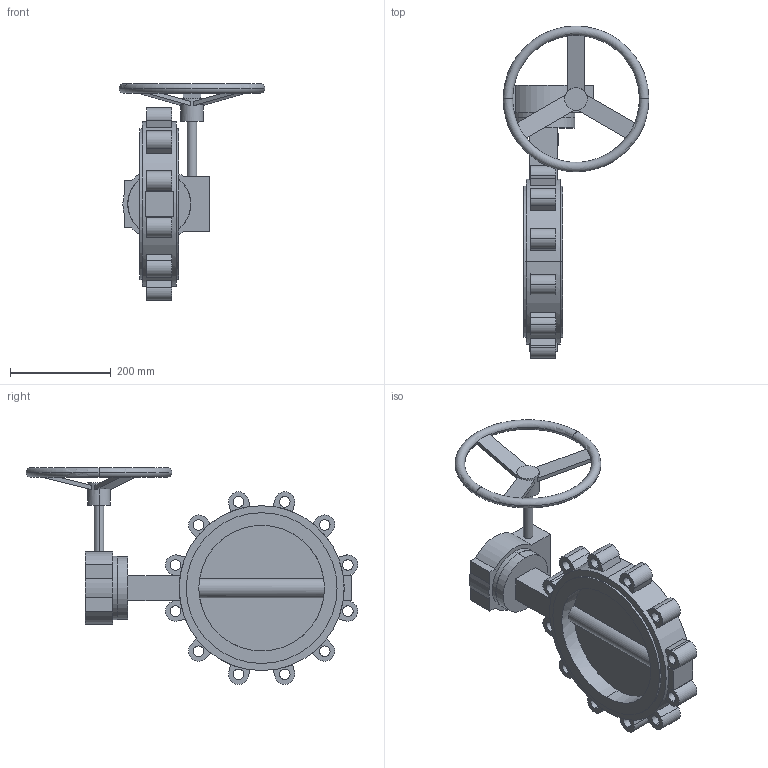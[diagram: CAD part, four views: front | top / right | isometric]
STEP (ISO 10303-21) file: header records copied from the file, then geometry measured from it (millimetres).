
FILE_DESCRIPTION (( 'STEP AP214' ), '1' );
FILE_NAME ('E124_250.STEP', '2021-05-28T12:35:53', ( '' ), ( '' ), 'SwSTEP 2.0', 'SolidWorks 2020', '' );
FILE_SCHEMA (( 'AUTOMOTIVE_DESIGN' ));
Length unit declared in the file: millimetre
Products named in the file (1): E124_250
Bounding box: 290 x 659.93 x 430.88 mm (x, y, z)
Volume: 6080261.1 mm3; surface area: 588785.7 mm2
Topology: 1 solids, 1 shells, 175 faces, 470 edges, 312 vertices
Faces by surface type: plane 105, cylinder 66, torus 4
Entity records: 7742 total; most frequent: CARTESIAN_POINT 1320, DIRECTION 961, ORIENTED_EDGE 940, EDGE_CURVE 470, AXIS2_PLACEMENT_3D 347, VERTEX_POINT 312, VECTOR 267, LINE 267
